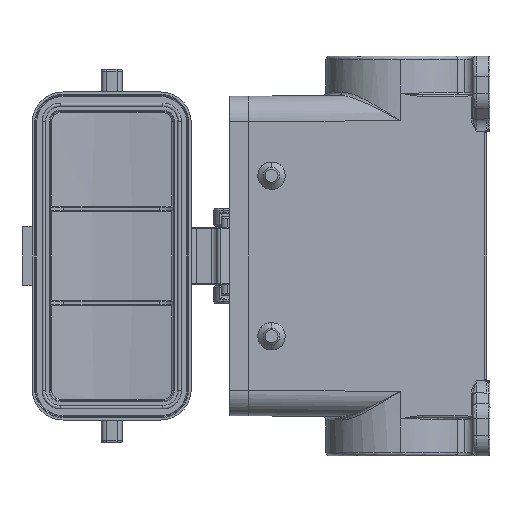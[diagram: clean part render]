
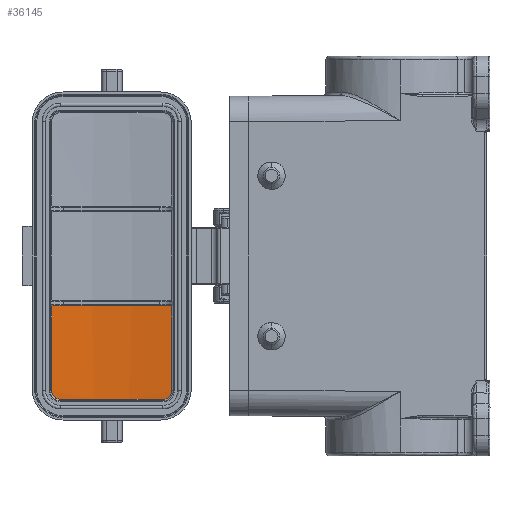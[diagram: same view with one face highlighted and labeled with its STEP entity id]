
A CAD part, left-side view. The second image highlights one B-rep face of the part: STEP entity #36145.
In plain terms, the highlighted cylindrical face has radius 123 mm (diameter 246 mm), a partial arc.
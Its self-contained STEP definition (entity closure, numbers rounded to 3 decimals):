
#165 = CARTESIAN_POINT ( 'NONE',  ( -41.9, 14.874, 15.061 ) ) ;
#1044 = CARTESIAN_POINT ( 'NONE',  ( 39.6, 14.538, 17.571 ) ) ;
#1541 = FACE_OUTER_BOUND ( 'NONE', #35975, .T. ) ;
#2902 = EDGE_CURVE ( 'NONE', #25270, #34396, #22653, .T. ) ;
#2937 = CARTESIAN_POINT ( 'NONE',  ( -14.6, -107.2, 0. ) ) ;
#2968 = EDGE_CURVE ( 'NONE', #9000, #13707, #9536, .T. ) ;
#3082 = DIRECTION ( 'NONE',  ( 1., 0., 0. ) ) ;
#3087 = ORIENTED_EDGE ( 'NONE', *, *, #2902, .T. ) ;
#3198 = CARTESIAN_POINT ( 'NONE',  ( -40.054, 14.548, -17.507 ) ) ;
#3441 = CARTESIAN_POINT ( 'NONE',  ( -41.586, 14.713, 16.323 ) ) ;
#3846 = EDGE_CURVE ( 'NONE', #13707, #25270, #23610, .T. ) ;
#6553 = CARTESIAN_POINT ( 'NONE',  ( -39.4, 14.538, 17.571 ) ) ;
#6561 = VERTEX_POINT ( 'NONE', #17556 ) ;
#6597 = CARTESIAN_POINT ( 'NONE',  ( -41.9, 14.833, -15.393 ) ) ;
#7558 = DIRECTION ( 'NONE',  ( 1., 0., 0. ) ) ;
#9000 = VERTEX_POINT ( 'NONE', #29835 ) ;
#9536 = CIRCLE ( 'NONE', #22141, 123. ) ;
#9855 = CARTESIAN_POINT ( 'NONE',  ( -41.586, 14.712, -16.324 ) ) ;
#9972 = VECTOR ( 'NONE', #13985, 1000. ) ;
#9994 = CARTESIAN_POINT ( 'NONE',  ( -41.838, 14.793, -15.71 ) ) ;
#10537 = CARTESIAN_POINT ( 'NONE',  ( -39.593, 14.538, -17.571 ) ) ;
#11369 = DIRECTION ( 'NONE',  ( 0., 0.992, 0.124 ) ) ;
#11654 = ORIENTED_EDGE ( 'NONE', *, *, #31726, .T. ) ;
#11818 = CARTESIAN_POINT ( 'NONE',  ( -14.6, 14.538, -17.571 ) ) ;
#12057 = VECTOR ( 'NONE', #7558, 1000. ) ;
#12250 = DIRECTION ( 'NONE',  ( 0., 0., -1. ) ) ;
#13007 = DIRECTION ( 'NONE',  ( 0., 0., -1. ) ) ;
#13083 = CARTESIAN_POINT ( 'NONE',  ( -41.406, 14.676, 16.596 ) ) ;
#13263 = CARTESIAN_POINT ( 'NONE',  ( -41.407, 14.676, -16.594 ) ) ;
#13361 = CARTESIAN_POINT ( 'NONE',  ( -40.94, 14.61, 17.067 ) ) ;
#13707 = VERTEX_POINT ( 'NONE', #41868 ) ;
#13985 = DIRECTION ( 'NONE',  ( -1., 0., 0. ) ) ;
#14773 = ORIENTED_EDGE ( 'NONE', *, *, #28385, .T. ) ;
#15558 = AXIS2_PLACEMENT_3D ( 'NONE', #2937, #3082, #13007 ) ;
#17556 = CARTESIAN_POINT ( 'NONE',  ( -39.4, 14.538, 17.571 ) ) ;
#18731 = VERTEX_POINT ( 'NONE', #36223 ) ;
#22141 = AXIS2_PLACEMENT_3D ( 'NONE', #30680, #37192, #11369 ) ;
#22485 = ORIENTED_EDGE ( 'NONE', *, *, #35477, .T. ) ;
#22653 = LINE ( 'NONE', #10537, #12057 ) ;
#22685 = CARTESIAN_POINT ( 'NONE',  ( -39.4, 14.538, -17.571 ) ) ;
#22914 = CARTESIAN_POINT ( 'NONE',  ( -39.734, 14.538, 17.571 ) ) ;
#23282 = ORIENTED_EDGE ( 'NONE', *, *, #2968, .T. ) ;
#23610 = B_SPLINE_CURVE_WITH_KNOTS ( 'NONE', 3,
 ( #38951, #6597, #9994, #9855, #13263, #38658, #41919, #3198, #25778, #22685 ),
 .UNSPECIFIED., .F., .F.,
 ( 4, 2, 2, 2, 4 ),
 ( 0., 0.25, 0.5, 0.75, 1. ),
 .UNSPECIFIED. ) ;
#24748 = AXIS2_PLACEMENT_3D ( 'NONE', #41064, #31146, #12250 ) ;
#24793 = CARTESIAN_POINT ( 'NONE',  ( -39.4, 14.538, -17.571 ) ) ;
#25270 = VERTEX_POINT ( 'NONE', #24793 ) ;
#25778 = CARTESIAN_POINT ( 'NONE',  ( -39.734, 14.538, -17.571 ) ) ;
#28114 = LINE ( 'NONE', #1044, #9972 ) ;
#28314 = CIRCLE ( 'NONE', #15558, 123. ) ;
#28385 = EDGE_CURVE ( 'NONE', #6561, #9000, #31813, .T. ) ;
#29135 = ORIENTED_EDGE ( 'NONE', *, *, #3846, .T. ) ;
#29835 = CARTESIAN_POINT ( 'NONE',  ( -41.9, 14.874, 15.061 ) ) ;
#30680 = CARTESIAN_POINT ( 'NONE',  ( -41.9, -107.2, 0. ) ) ;
#31146 = DIRECTION ( 'NONE',  ( 1., 0., 0. ) ) ;
#31726 = EDGE_CURVE ( 'NONE', #18731, #6561, #28114, .T. ) ;
#31813 = B_SPLINE_CURVE_WITH_KNOTS ( 'NONE', 3,
 ( #6553, #22914, #39048, #32099, #13361, #13083, #3441, #38909, #32238, #165 ),
 .UNSPECIFIED., .F., .F.,
 ( 4, 2, 2, 2, 4 ),
 ( 0., 0.25, 0.5, 0.75, 1. ),
 .UNSPECIFIED. ) ;
#32099 = CARTESIAN_POINT ( 'NONE',  ( -40.668, 14.584, 17.25 ) ) ;
#32238 = CARTESIAN_POINT ( 'NONE',  ( -41.9, 14.833, 15.393 ) ) ;
#32354 = CYLINDRICAL_SURFACE ( 'NONE', #24748, 123. ) ;
#34396 = VERTEX_POINT ( 'NONE', #11818 ) ;
#35477 = EDGE_CURVE ( 'NONE', #34396, #18731, #28314, .T. ) ;
#35975 = EDGE_LOOP ( 'NONE', ( #14773, #23282, #29135, #3087, #22485, #11654 ) ) ;
#36145 = ADVANCED_FACE ( 'NONE', ( #1541 ), #32354, .F. ) ;
#36223 = CARTESIAN_POINT ( 'NONE',  ( -14.6, 14.538, 17.571 ) ) ;
#37192 = DIRECTION ( 'NONE',  ( -1., 0., 0. ) ) ;
#38658 = CARTESIAN_POINT ( 'NONE',  ( -40.938, 14.61, -17.068 ) ) ;
#38909 = CARTESIAN_POINT ( 'NONE',  ( -41.837, 14.793, 15.712 ) ) ;
#38951 = CARTESIAN_POINT ( 'NONE',  ( -41.9, 14.874, -15.061 ) ) ;
#39048 = CARTESIAN_POINT ( 'NONE',  ( -40.055, 14.548, 17.507 ) ) ;
#41064 = CARTESIAN_POINT ( 'NONE',  ( 42.4, -107.2, 0. ) ) ;
#41868 = CARTESIAN_POINT ( 'NONE',  ( -41.9, 14.874, -15.061 ) ) ;
#41919 = CARTESIAN_POINT ( 'NONE',  ( -40.669, 14.584, -17.25 ) ) ;
